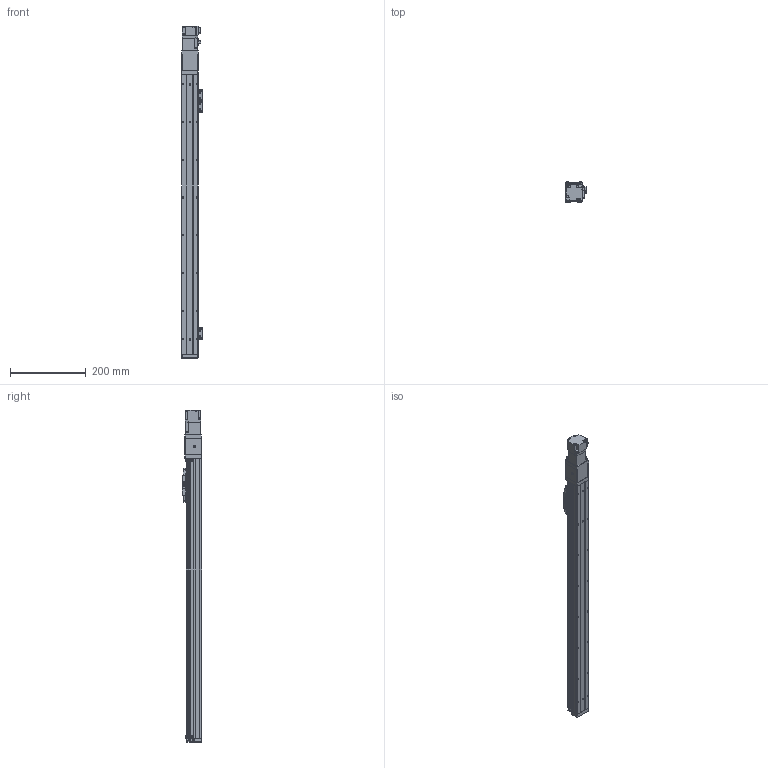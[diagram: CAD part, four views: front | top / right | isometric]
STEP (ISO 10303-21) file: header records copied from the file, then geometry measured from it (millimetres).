
FILE_DESCRIPTION (( 'STEP AP203' ), '1' );
FILE_NAME ('GTH4-600-BC-M05-C4.STEP', '2024-01-05T01:03:20', ( '' ), ( '' ), 'SwSTEP 2.0', 'SolidWorks 2020', '' );
FILE_SCHEMA (( 'CONFIG_CONTROL_DESIGN' ));
Length unit declared in the file: millimetre
Products named in the file (19): HG-KR13; BTH40-004; BTH40-022; BTH40-001-50_BTH40-001-600; BTH40-005-1; BTH40-006; GBT70.1-2000 M3×16; GBT 70.1-M3℅6; BTH50-028; GBT96.1-2002 3×0.8; GBT 70.1-M2.5×6; BTH50-023; BTH40-003; GTH4-600-BC-M05-C4; GBT 70.3-M3℅6; BTH-M3X5X6; BTH40-013; BTH40-017_笢俶; BTH50-024
Assembly tree (49 placements, depth 2):
  GTH4-600-BC-M05-C4
    BTH40-001-50_BTH40-001-600
    BTH40-003
    BTH40-006
    BTH-M3X5X6  x10
    GBT70.1-2000 M3×16  x4
    BTH50-028  x2
    BTH50-023  x3
    BTH50-024  x3
    GBT 70.1-M3℅6  x6
    GBT96.1-2002 3×0.8  x6
    BTH40-022
    GBT 70.1-M2.5×6  x2
    BTH40-004
    BTH40-013
    HG-KR13
    GBT 70.3-M3℅6  x4
    BTH40-017_笢俶
    BTH40-005-1
Bounding box: 55.2 x 52 x 879.4 mm (x, y, z)
Volume: 1360506.8 mm3; surface area: 246428.9 mm2
Topology: 51 solids, 51 shells, 1868 faces, 4386 edges, 2710 vertices
Faces by surface type: plane 1026, cylinder 469, cone 237, torus 132, sphere 4
Entity records: 34440 total; most frequent: DIRECTION 5573, CARTESIAN_POINT 5571, ORIENTED_EDGE 5234, EDGE_CURVE 2617, AXIS2_PLACEMENT_3D 1875, LINE 1823, VECTOR 1823, VERTEX_POINT 1641
